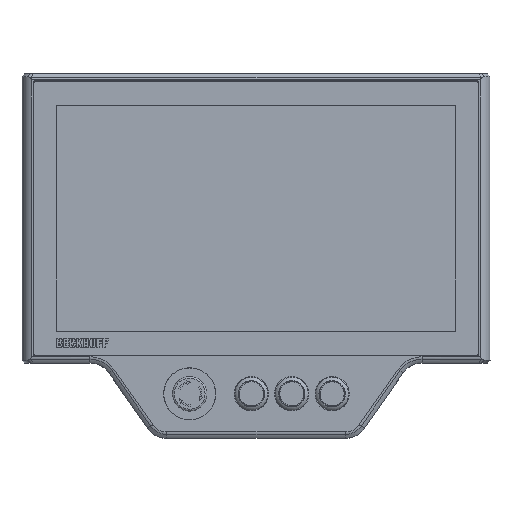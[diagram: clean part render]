
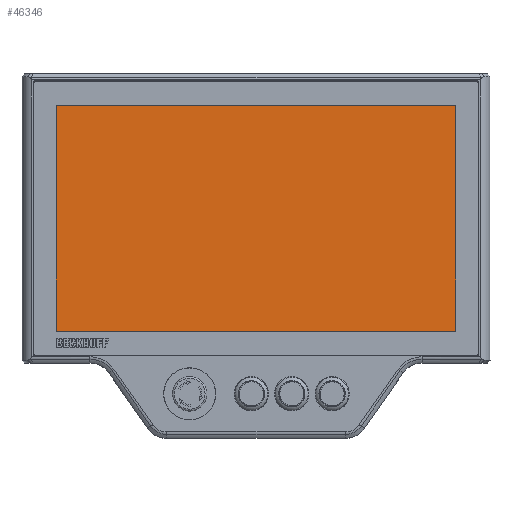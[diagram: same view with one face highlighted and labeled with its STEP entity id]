
A CAD part, top view. The second image highlights one B-rep face of the part: STEP entity #46346.
In plain terms, the highlighted planar face has unit normal (0, 0, 1).
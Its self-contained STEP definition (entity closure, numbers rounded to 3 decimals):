
#2175=LINE('',#68889,#5556);
#2176=LINE('',#68891,#5557);
#2177=LINE('',#68893,#5558);
#2178=LINE('',#68894,#5559);
#5556=VECTOR('',#55709,10.);
#5557=VECTOR('',#55710,10.);
#5558=VECTOR('',#55711,10.);
#5559=VECTOR('',#55712,10.);
#10147=FACE_OUTER_BOUND('',#12912,.T.);
#12912=EDGE_LOOP('',(#30699,#30700,#30701,#30702));
#18428=VERTEX_POINT('',#68887);
#18429=VERTEX_POINT('',#68888);
#18430=VERTEX_POINT('',#68890);
#18431=VERTEX_POINT('',#68892);
#23106=EDGE_CURVE('',#18428,#18429,#2175,.T.);
#23107=EDGE_CURVE('',#18429,#18430,#2176,.T.);
#23108=EDGE_CURVE('',#18430,#18431,#2177,.T.);
#23109=EDGE_CURVE('',#18431,#18428,#2178,.T.);
#30699=ORIENTED_EDGE('',*,*,#23106,.T.);
#30700=ORIENTED_EDGE('',*,*,#23107,.T.);
#30701=ORIENTED_EDGE('',*,*,#23108,.T.);
#30702=ORIENTED_EDGE('',*,*,#23109,.T.);
#42569=PLANE('',#49621);
#46346=ADVANCED_FACE('',(#10147),#42569,.T.);
#49621=AXIS2_PLACEMENT_3D('',#68886,#55707,#55708);
#55707=DIRECTION('center_axis',(0.,0.,
1.));
#55708=DIRECTION('ref_axis',(1.,0.,0.));
#55709=DIRECTION('',(0.,1.,0.));
#55710=DIRECTION('',(-1.,0.,0.));
#55711=DIRECTION('',(0.,-1.,0.));
#55712=DIRECTION('',(1.,0.,0.));
#68886=CARTESIAN_POINT('Origin',(0.,0.,
1.6));
#68887=CARTESIAN_POINT('',(173.,-97.75,1.6));
#68888=CARTESIAN_POINT('',(173.,97.75,1.6));
#68889=CARTESIAN_POINT('',(173.,48.875,1.6));
#68890=CARTESIAN_POINT('',(-173.,97.75,1.6));
#68891=CARTESIAN_POINT('',(-86.5,97.75,1.6));
#68892=CARTESIAN_POINT('',(-173.,-97.75,1.6));
#68893=CARTESIAN_POINT('',(-173.,-48.875,1.6));
#68894=CARTESIAN_POINT('',(86.5,-97.75,1.6));
